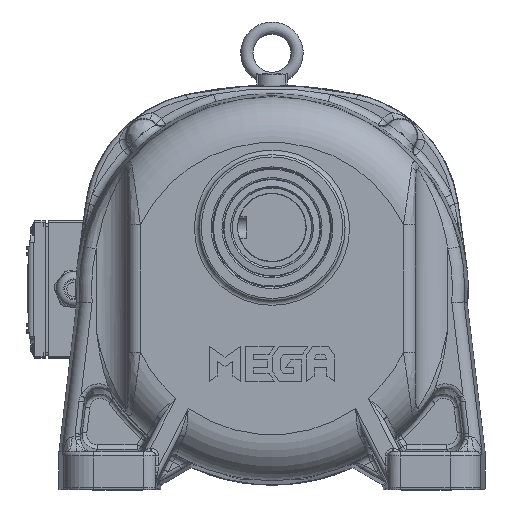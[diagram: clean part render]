
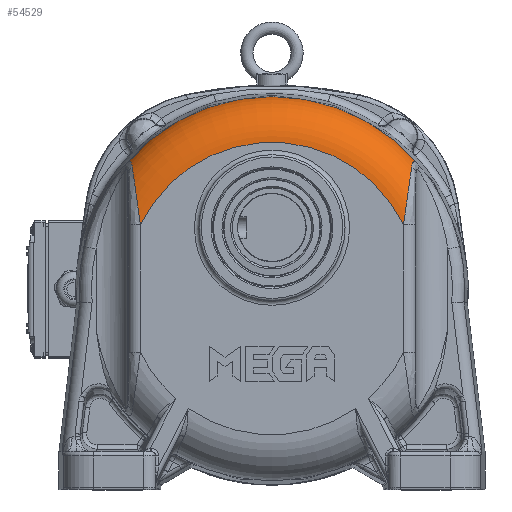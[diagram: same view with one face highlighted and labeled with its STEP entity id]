
A CAD part, top view. The second image highlights one B-rep face of the part: STEP entity #54529.
In plain terms, the highlighted toroidal (fillet/blend) face has major radius 96.083 mm and minor radius 30 mm.
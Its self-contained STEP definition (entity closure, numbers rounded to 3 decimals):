
#889=TOROIDAL_SURFACE('',#59756,96.083,30.);
#11153=FACE_OUTER_BOUND('',#14446,.T.);
#14446=EDGE_LOOP('',(#45599,#45600,#45601,#45602,#45603,#45604));
#17459=CIRCLE('',#59264,96.083);
#17625=CIRCLE('',#59653,126.073);
#19798=B_SPLINE_CURVE_WITH_KNOTS('',3,(#117166,#117167,#117168,#117169,
#117170,#117171),.UNSPECIFIED.,.F.,.F.,(4,1,1,4),(-3.592,-3.079,
-2.053,0.),.UNSPECIFIED.);
#19800=B_SPLINE_CURVE_WITH_KNOTS('',3,(#117215,#117216,#117217,#117218,
#117219,#117220,#117221),.UNSPECIFIED.,.F.,.F.,(4,1,1,1,4),(-1.211,
-0.865,-0.692,-0.346,0.),
 .UNSPECIFIED.);
#19803=B_SPLINE_CURVE_WITH_KNOTS('',3,(#117296,#117297,#117298,#117299,
#117300,#117301),.UNSPECIFIED.,.F.,.F.,(4,1,1,4),(-1.212,-0.692,
-0.346,0.),.UNSPECIFIED.);
#19804=B_SPLINE_CURVE_WITH_KNOTS('',3,(#117302,#117303,#117304,#117305,
#117306,#117307,#117308),.UNSPECIFIED.,.F.,.F.,(4,1,1,1,4),(-3.594,
-2.054,-1.027,-0.513,0.),
 .UNSPECIFIED.);
#23713=VERTEX_POINT('',#111222);
#23714=VERTEX_POINT('',#111224);
#24073=VERTEX_POINT('',#116493);
#24074=VERTEX_POINT('',#116504);
#24154=VERTEX_POINT('',#117164);
#24156=VERTEX_POINT('',#117295);
#30722=EDGE_CURVE('',#23714,#23713,#17459,.T.);
#31328=EDGE_CURVE('',#24073,#24074,#17625,.F.);
#31485=EDGE_CURVE('',#24154,#23713,#19798,.T.);
#31488=EDGE_CURVE('',#24074,#24154,#19800,.T.);
#31492=EDGE_CURVE('',#24156,#24073,#19803,.T.);
#31493=EDGE_CURVE('',#23714,#24156,#19804,.T.);
#45599=ORIENTED_EDGE('',*,*,#31485,.F.);
#45600=ORIENTED_EDGE('',*,*,#31488,.F.);
#45601=ORIENTED_EDGE('',*,*,#31328,.F.);
#45602=ORIENTED_EDGE('',*,*,#31492,.F.);
#45603=ORIENTED_EDGE('',*,*,#31493,.F.);
#45604=ORIENTED_EDGE('',*,*,#30722,.T.);
#54529=ADVANCED_FACE('',(#11153),#889,.T.);
#59264=AXIS2_PLACEMENT_3D('',#111225,#70998,#70999);
#59653=AXIS2_PLACEMENT_3D('',#116505,#71972,#71973);
#59756=AXIS2_PLACEMENT_3D('',#117294,#72296,#72297);
#70998=DIRECTION('center_axis',(0.,0.,-1.));
#70999=DIRECTION('ref_axis',(-1.,0.,0.));
#71972=DIRECTION('center_axis',(0.,0.,1.));
#71973=DIRECTION('ref_axis',(-1.,0.,0.));
#72296=DIRECTION('center_axis',(0.,0.,-1.));
#72297=DIRECTION('ref_axis',(-1.,0.,0.));
#111222=CARTESIAN_POINT('',(83.087,21.195,53.754));
#111224=CARTESIAN_POINT('',(-89.828,21.195,53.754));
#111225=CARTESIAN_POINT('Origin',(-3.371,-20.722,53.754));
#116493=CARTESIAN_POINT('',(-98.379,62.15,24.54));
#116504=CARTESIAN_POINT('',(91.638,62.15,24.54));
#116505=CARTESIAN_POINT('Origin',(-3.371,-20.722,24.54));
#117164=CARTESIAN_POINT('',(88.417,59.135,39.428));
#117166=CARTESIAN_POINT('Ctrl Pts',(88.417,59.135,39.428));
#117167=CARTESIAN_POINT('Ctrl Pts',(88.216,57.758,41.15));
#117168=CARTESIAN_POINT('Ctrl Pts',(87.543,53.06,45.767));
#117169=CARTESIAN_POINT('Ctrl Pts',(85.73,40.186,52.563));
#117170=CARTESIAN_POINT('Ctrl Pts',(84.064,28.511,53.754));
#117171=CARTESIAN_POINT('Ctrl Pts',(83.087,21.195,53.754));
#117215=CARTESIAN_POINT('Ctrl Pts',(91.638,62.15,24.54));
#117216=CARTESIAN_POINT('Ctrl Pts',(91.184,62.618,25.875));
#117217=CARTESIAN_POINT('Ctrl Pts',(90.527,63.063,28.054));
#117218=CARTESIAN_POINT('Ctrl Pts',(89.598,62.886,31.897));
#117219=CARTESIAN_POINT('Ctrl Pts',(88.891,61.742,35.679));
#117220=CARTESIAN_POINT('Ctrl Pts',(88.552,60.063,38.266));
#117221=CARTESIAN_POINT('Ctrl Pts',(88.417,59.135,39.428));
#117294=CARTESIAN_POINT('Origin',(-3.371,-20.722,23.754));
#117295=CARTESIAN_POINT('',(-95.158,59.135,39.428));
#117296=CARTESIAN_POINT('Ctrl Pts',(-95.158,59.135,39.428));
#117297=CARTESIAN_POINT('Ctrl Pts',(-95.361,60.528,37.685));
#117298=CARTESIAN_POINT('Ctrl Pts',(-95.829,62.494,
34.284));
#117299=CARTESIAN_POINT('Ctrl Pts',(-97.039,63.228,
28.803));
#117300=CARTESIAN_POINT('Ctrl Pts',(-97.925,62.618,
25.875));
#117301=CARTESIAN_POINT('Ctrl Pts',(-98.379,62.15,24.54));
#117302=CARTESIAN_POINT('Ctrl Pts',(-89.828,21.195,
53.754));
#117303=CARTESIAN_POINT('Ctrl Pts',(-90.561,26.686,
53.754));
#117304=CARTESIAN_POINT('Ctrl Pts',(-91.895,36.151,
53.007));
#117305=CARTESIAN_POINT('Ctrl Pts',(-93.514,47.594,
48.882));
#117306=CARTESIAN_POINT('Ctrl Pts',(-94.509,54.626,44.234));
#117307=CARTESIAN_POINT('Ctrl Pts',(-94.957,57.757,
41.151));
#117308=CARTESIAN_POINT('Ctrl Pts',(-95.158,59.135,39.428));
